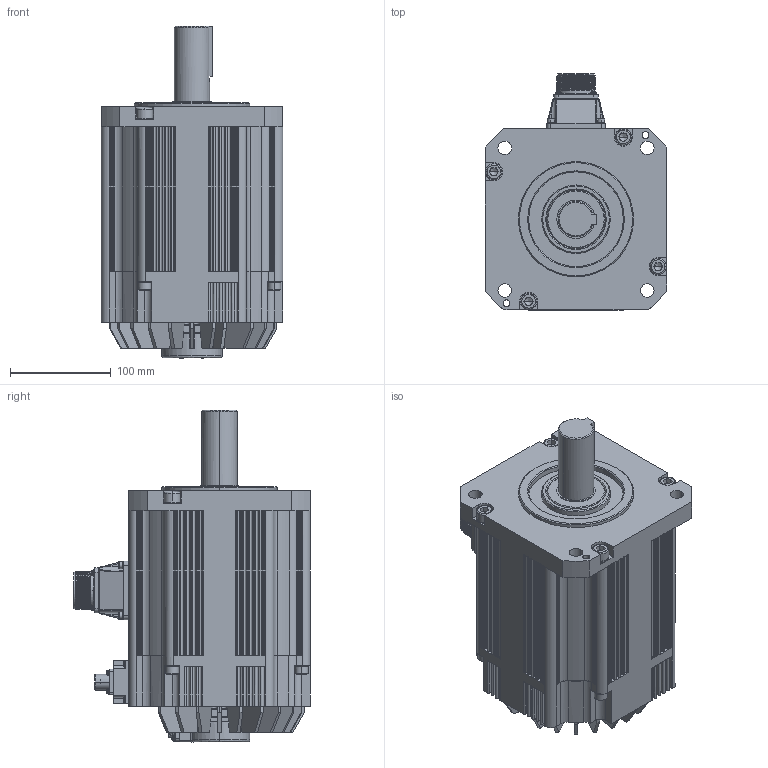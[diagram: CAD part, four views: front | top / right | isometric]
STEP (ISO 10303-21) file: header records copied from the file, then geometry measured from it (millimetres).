
FILE_DESCRIPTION (( 'STEP AP203' ), '1' );
FILE_NAME ('TSM3610N7375E710.STEP', '2018-07-04T09:11:54', ( '' ), ( '' ), 'SwSTEP 2.0', 'SolidWorks 2017', '' );
FILE_SCHEMA (( 'CONFIG_CONTROL_DESIGN' ));
Products named in the file (1): TSM3610N7375E710
Bounding box: 180 x 234.5 x 329.5 mm (x, y, z)
Volume: 6204661.6 mm3; surface area: 365092.5 mm2
Topology: 1 solids, 20 shells, 2819 faces, 7499 edges, 4818 vertices
Faces by surface type: plane 1514, cylinder 748, bspline 404, cone 139, torus 14
Entity records: 108945 total; most frequent: CARTESIAN_POINT 42379, ORIENTED_EDGE 14882, DIRECTION 12217, EDGE_CURVE 7441, VERTEX_POINT 4818, VECTOR 4509, LINE 4509, AXIS2_PLACEMENT_3D 3854
